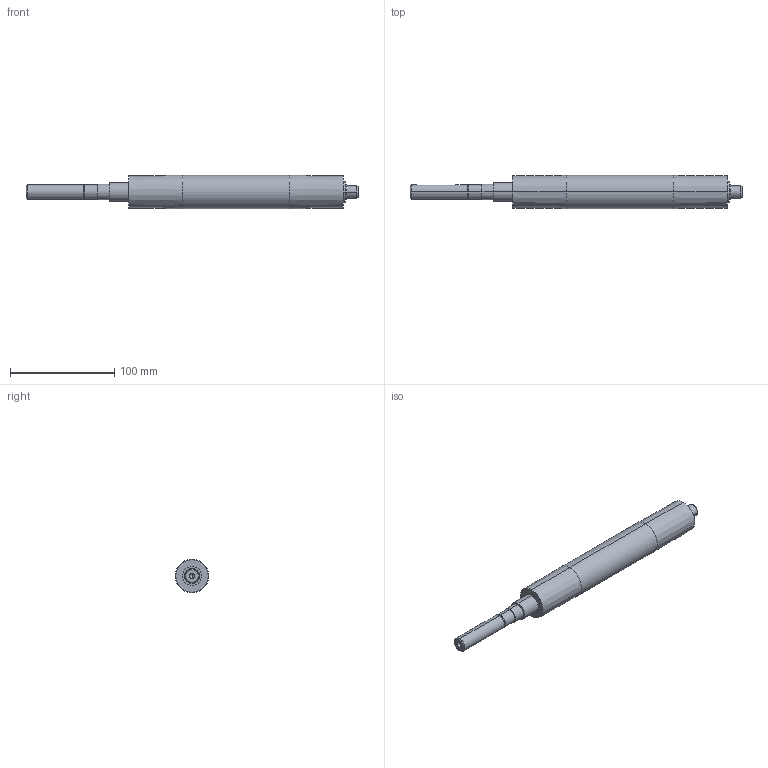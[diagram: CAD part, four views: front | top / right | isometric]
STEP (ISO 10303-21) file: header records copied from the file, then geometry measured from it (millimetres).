
FILE_DESCRIPTION (( 'STEP AP203' ), '1' );
FILE_NAME ('084.801.061.STEP', '2015-02-11T08:13:02', ( '' ), ( '' ), 'SwSTEP 2.0', 'SolidWorks 2012', '' );
FILE_SCHEMA (( 'CONFIG_CONTROL_DESIGN' ));
Length unit declared in the file: millimetre
Products named in the file (1): 084.801.061
Bounding box: 318.5 x 32 x 32 mm (x, y, z)
Volume: 181405.5 mm3; surface area: 27767.7 mm2
Topology: 1 solids, 1 shells, 45 faces, 92 edges, 57 vertices
Faces by surface type: cylinder 22, plane 13, cone 10
Entity records: 1317 total; most frequent: CARTESIAN_POINT 255, DIRECTION 230, ORIENTED_EDGE 180, AXIS2_PLACEMENT_3D 96, EDGE_CURVE 90, VERTEX_POINT 57, EDGE_LOOP 55, CIRCLE 50
